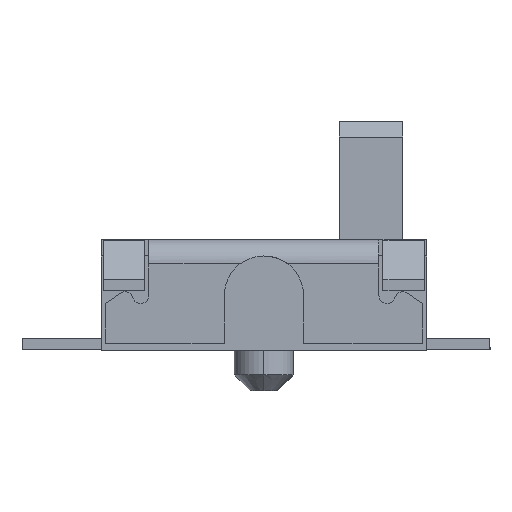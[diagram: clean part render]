
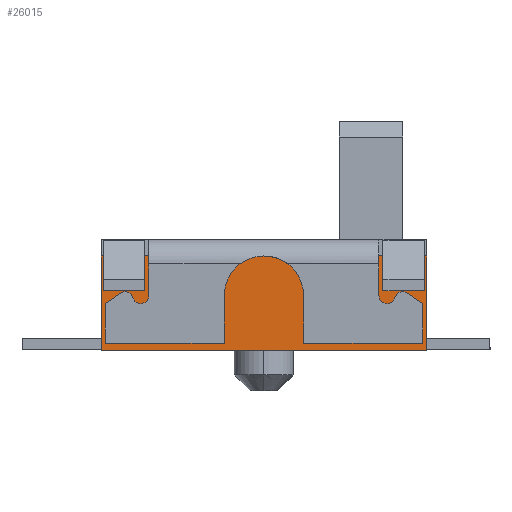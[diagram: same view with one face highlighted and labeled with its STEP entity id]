
A CAD part, left-side view. The second image highlights one B-rep face of the part: STEP entity #26015.
In plain terms, the highlighted planar face has unit normal (-1, 0, 0).
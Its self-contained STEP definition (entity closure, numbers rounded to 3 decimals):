
#17 = VECTOR ( 'NONE', #22858, 1000. ) ;
#285 = CARTESIAN_POINT ( 'NONE',  ( -4.6, -1.5, 1.2 ) ) ;
#288 = CARTESIAN_POINT ( 'NONE',  ( -4.6, 0., 0.01 ) ) ;
#715 = CARTESIAN_POINT ( 'NONE',  ( -4.6, 2.025, 1.2 ) ) ;
#736 = ORIENTED_EDGE ( 'NONE', *, *, #25609, .F. ) ;
#957 = CARTESIAN_POINT ( 'NONE',  ( -4.6, 2.05, 1.2 ) ) ;
#1441 = ORIENTED_EDGE ( 'NONE', *, *, #16684, .F. ) ;
#1731 = DIRECTION ( 'NONE',  ( 1., 0., 0. ) ) ;
#2002 = DIRECTION ( 'NONE',  ( 0., 0., -1. ) ) ;
#2004 = LINE ( 'NONE', #24523, #17 ) ;
#2167 = ORIENTED_EDGE ( 'NONE', *, *, #25625, .F. ) ;
#2293 = CARTESIAN_POINT ( 'NONE',  ( -4.6, -2.05, 1.2 ) ) ;
#2355 = VECTOR ( 'NONE', #9244, 1000. ) ;
#2529 = LINE ( 'NONE', #23544, #4079 ) ;
#2735 = VERTEX_POINT ( 'NONE', #14452 ) ;
#2818 = EDGE_CURVE ( 'NONE', #4662, #5665, #2529, .T. ) ;
#2912 = LINE ( 'NONE', #17160, #6206 ) ;
#3023 = EDGE_CURVE ( 'NONE', #6804, #26599, #21735, .T. ) ;
#3234 = CARTESIAN_POINT ( 'NONE',  ( -4.6, 2.05, 0.76 ) ) ;
#3266 = VECTOR ( 'NONE', #25517, 1000. ) ;
#3361 = DIRECTION ( 'NONE',  ( 0., -1., 0. ) ) ;
#3458 = ORIENTED_EDGE ( 'NONE', *, *, #2818, .F. ) ;
#4079 = VECTOR ( 'NONE', #4744, 1000. ) ;
#4503 = VECTOR ( 'NONE', #3361, 1000. ) ;
#4525 = LINE ( 'NONE', #19180, #3266 ) ;
#4601 = AXIS2_PLACEMENT_3D ( 'NONE', #20792, #1731, #2002 ) ;
#4662 = VERTEX_POINT ( 'NONE', #17971 ) ;
#4744 = DIRECTION ( 'NONE',  ( 0., 0., 1. ) ) ;
#4900 = VECTOR ( 'NONE', #17687, 1000. ) ;
#5665 = VERTEX_POINT ( 'NONE', #22334 ) ;
#5798 = DIRECTION ( 'NONE',  ( 0., -1., 0. ) ) ;
#6142 = VERTEX_POINT ( 'NONE', #21049 ) ;
#6206 = VECTOR ( 'NONE', #19503, 1000. ) ;
#6656 = VERTEX_POINT ( 'NONE', #27017 ) ;
#6804 = VERTEX_POINT ( 'NONE', #9824 ) ;
#6825 = EDGE_LOOP ( 'NONE', ( #26871, #25163, #10344, #15760, #8311, #1441, #17407, #14576, #10766, #736, #2167, #3458 ) ) ;
#7174 = CARTESIAN_POINT ( 'NONE',  ( -4.6, 2.05, 0.01 ) ) ;
#8101 = EDGE_CURVE ( 'NONE', #6142, #6804, #2912, .T. ) ;
#8135 = VERTEX_POINT ( 'NONE', #25080 ) ;
#8311 = ORIENTED_EDGE ( 'NONE', *, *, #12619, .F. ) ;
#8382 = EDGE_CURVE ( 'NONE', #2735, #6142, #22015, .T. ) ;
#8473 = VECTOR ( 'NONE', #17440, 1000. ) ;
#9153 = VERTEX_POINT ( 'NONE', #24976 ) ;
#9244 = DIRECTION ( 'NONE',  ( 0., -1., 0. ) ) ;
#9480 = VERTEX_POINT ( 'NONE', #25087 ) ;
#9778 = CARTESIAN_POINT ( 'NONE',  ( -4.6, 2.05, 0.76 ) ) ;
#9824 = CARTESIAN_POINT ( 'NONE',  ( -4.6, -2.025, 1.2 ) ) ;
#10344 = ORIENTED_EDGE ( 'NONE', *, *, #16120, .F. ) ;
#10576 = LINE ( 'NONE', #288, #22347 ) ;
#10766 = ORIENTED_EDGE ( 'NONE', *, *, #8382, .F. ) ;
#11162 = LINE ( 'NONE', #715, #8473 ) ;
#12414 = PLANE ( 'NONE',  #4601 ) ;
#12472 = VERTEX_POINT ( 'NONE', #7174 ) ;
#12619 = EDGE_CURVE ( 'NONE', #9480, #12472, #10576, .T. ) ;
#12823 = VECTOR ( 'NONE', #5798, 1000. ) ;
#13277 = DIRECTION ( 'NONE',  ( 0., 0., -1. ) ) ;
#13627 = VECTOR ( 'NONE', #25561, 1000. ) ;
#14452 = CARTESIAN_POINT ( 'NONE',  ( -4.6, -1.5, 0.76 ) ) ;
#14576 = ORIENTED_EDGE ( 'NONE', *, *, #8101, .F. ) ;
#14705 = DIRECTION ( 'NONE',  ( 0., 1., 0. ) ) ;
#15021 = CARTESIAN_POINT ( 'NONE',  ( -4.6, -2.05, 1.2 ) ) ;
#15760 = ORIENTED_EDGE ( 'NONE', *, *, #24855, .F. ) ;
#16120 = EDGE_CURVE ( 'NONE', #9153, #6656, #2004, .T. ) ;
#16153 = LINE ( 'NONE', #957, #4900 ) ;
#16266 = VECTOR ( 'NONE', #13277, 1000. ) ;
#16684 = EDGE_CURVE ( 'NONE', #26599, #9480, #17399, .T. ) ;
#17160 = CARTESIAN_POINT ( 'NONE',  ( -4.6, -2.025, 1.2 ) ) ;
#17399 = LINE ( 'NONE', #2293, #16266 ) ;
#17407 = ORIENTED_EDGE ( 'NONE', *, *, #3023, .F. ) ;
#17440 = DIRECTION ( 'NONE',  ( 0., 0., -1. ) ) ;
#17687 = DIRECTION ( 'NONE',  ( 0., -1., 0. ) ) ;
#17971 = CARTESIAN_POINT ( 'NONE',  ( -4.6, 1.5, 0.76 ) ) ;
#18005 = EDGE_CURVE ( 'NONE', #22806, #4662, #22262, .T. ) ;
#18213 = EDGE_CURVE ( 'NONE', #6656, #22806, #11162, .T. ) ;
#19077 = LINE ( 'NONE', #285, #13627 ) ;
#19180 = CARTESIAN_POINT ( 'NONE',  ( -4.6, 2.05, 1.2 ) ) ;
#19503 = DIRECTION ( 'NONE',  ( 0., 0., 1. ) ) ;
#20305 = CARTESIAN_POINT ( 'NONE',  ( -4.6, -2.05, 1.2 ) ) ;
#20792 = CARTESIAN_POINT ( 'NONE',  ( -4.6, 2.05, 1.2 ) ) ;
#21049 = CARTESIAN_POINT ( 'NONE',  ( -4.6, -2.025, 0.76 ) ) ;
#21695 = CARTESIAN_POINT ( 'NONE',  ( -4.6, 2.025, 0.76 ) ) ;
#21735 = LINE ( 'NONE', #20305, #2355 ) ;
#22015 = LINE ( 'NONE', #3234, #4503 ) ;
#22262 = LINE ( 'NONE', #9778, #12823 ) ;
#22334 = CARTESIAN_POINT ( 'NONE',  ( -4.6, 1.5, 1.2 ) ) ;
#22347 = VECTOR ( 'NONE', #14705, 1000. ) ;
#22806 = VERTEX_POINT ( 'NONE', #21695 ) ;
#22856 = FACE_OUTER_BOUND ( 'NONE', #6825, .T. ) ;
#22858 = DIRECTION ( 'NONE',  ( 0., -1., 0. ) ) ;
#23544 = CARTESIAN_POINT ( 'NONE',  ( -4.6, 1.5, 1.2 ) ) ;
#24523 = CARTESIAN_POINT ( 'NONE',  ( -4.6, -2.05, 1.2 ) ) ;
#24855 = EDGE_CURVE ( 'NONE', #12472, #9153, #4525, .T. ) ;
#24976 = CARTESIAN_POINT ( 'NONE',  ( -4.6, 2.05, 1.2 ) ) ;
#25080 = CARTESIAN_POINT ( 'NONE',  ( -4.6, -1.5, 1.2 ) ) ;
#25087 = CARTESIAN_POINT ( 'NONE',  ( -4.6, -2.05, 0.01 ) ) ;
#25163 = ORIENTED_EDGE ( 'NONE', *, *, #18213, .F. ) ;
#25517 = DIRECTION ( 'NONE',  ( 0., 0., 1. ) ) ;
#25561 = DIRECTION ( 'NONE',  ( 0., 0., -1. ) ) ;
#25609 = EDGE_CURVE ( 'NONE', #8135, #2735, #19077, .T. ) ;
#25625 = EDGE_CURVE ( 'NONE', #5665, #8135, #16153, .T. ) ;
#26015 = ADVANCED_FACE ( 'NONE', ( #22856 ), #12414, .F. ) ;
#26599 = VERTEX_POINT ( 'NONE', #15021 ) ;
#26871 = ORIENTED_EDGE ( 'NONE', *, *, #18005, .F. ) ;
#27017 = CARTESIAN_POINT ( 'NONE',  ( -4.6, 2.025, 1.2 ) ) ;
